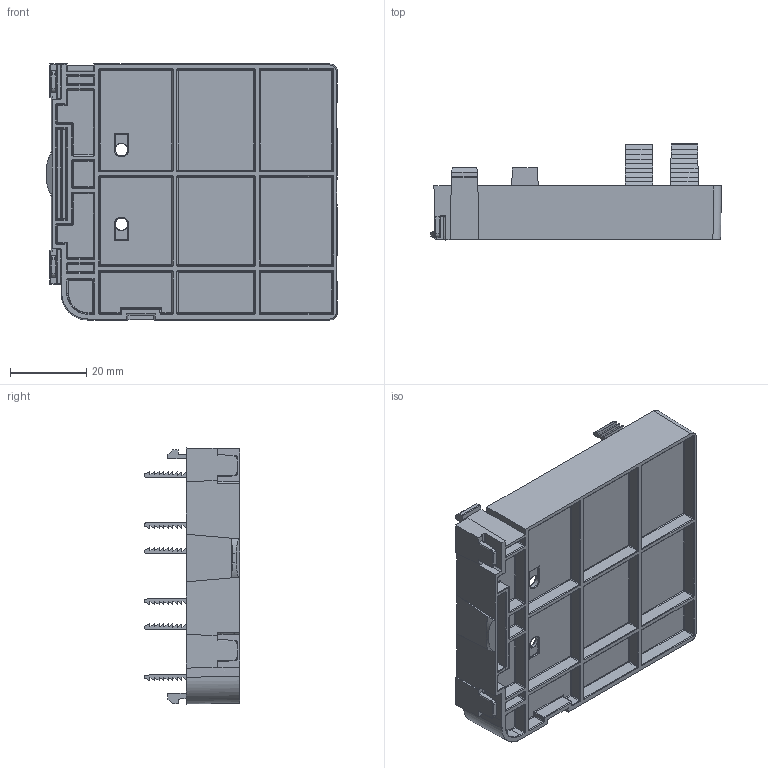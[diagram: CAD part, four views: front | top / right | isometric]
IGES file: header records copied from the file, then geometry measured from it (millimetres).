
Start section: SolidWorks IGES file using analytic representation for surfaces
Global section: file name: C:\Users\vuorinen_kari\Desktop\prj\P00010_LC_HYBRIDI\vedonpoistaja\D007806.IGS; native system: SolidWorks 2014; preprocessor: SolidWorks 2014; author: vuorinen_kari; date: 180404.132151; units: millimetre
Bounding box: 76.14 x 25.04 x 67 mm (x, y, z)
Surface area: 22288.3 mm2 (no closed solid volume)
Topology: 0 solids, 0 shells, 991 faces, 6235 edges, 6218 vertices
Faces by surface type: bspline 614, revolution 377
